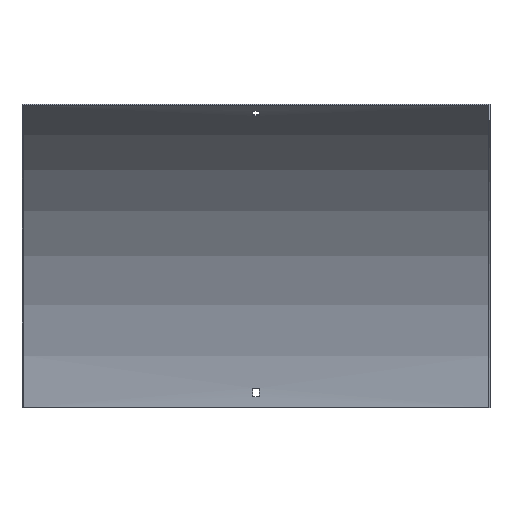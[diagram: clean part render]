
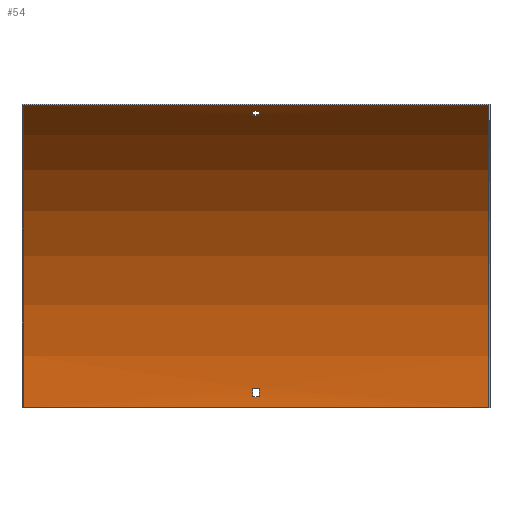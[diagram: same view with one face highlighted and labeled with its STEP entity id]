
A CAD part, front view. The second image highlights one B-rep face of the part: STEP entity #54.
In plain terms, the highlighted cylindrical face has radius 375 mm (diameter 750 mm), a partial arc.
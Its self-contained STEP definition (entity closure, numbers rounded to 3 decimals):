
#6 = LINE ( 'NONE', #334, #40 ) ;
#17 = CIRCLE ( 'NONE', #490, 375. ) ;
#21 = CARTESIAN_POINT ( 'NONE',  ( 3.25, -1.692, 12. ) ) ;
#22 = FACE_OUTER_BOUND ( 'NONE', #413, .T. ) ;
#24 = ORIENTED_EDGE ( 'NONE', *, *, #376, .F. ) ;
#30 = AXIS2_PLACEMENT_3D ( 'NONE', #404, #263, #533 ) ;
#32 = CIRCLE ( 'NONE', #109, 375. ) ;
#40 = VECTOR ( 'NONE', #572, 1000. ) ;
#45 = VERTEX_POINT ( 'NONE', #106 ) ;
#54 = ADVANCED_FACE ( 'NONE', ( #541, #22, #491 ), #255, .F. ) ;
#55 = VERTEX_POINT ( 'NONE', #21 ) ;
#57 = CIRCLE ( 'NONE', #286, 375. ) ;
#59 = ORIENTED_EDGE ( 'NONE', *, *, #576, .F. ) ;
#66 = VERTEX_POINT ( 'NONE', #308 ) ;
#76 = AXIS2_PLACEMENT_3D ( 'NONE', #153, #110, #259 ) ;
#88 = LINE ( 'NONE', #281, #585 ) ;
#95 = ORIENTED_EDGE ( 'NONE', *, *, #129, .T. ) ;
#102 = DIRECTION ( 'NONE',  ( -1., 0., 0. ) ) ;
#106 = CARTESIAN_POINT ( 'NONE',  ( -3.25, -171.108, 313.75 ) ) ;
#108 = EDGE_CURVE ( 'NONE', #326, #66, #530, .T. ) ;
#109 = AXIS2_PLACEMENT_3D ( 'NONE', #121, #450, #215 ) ;
#110 = DIRECTION ( 'NONE',  ( -1., 0., 0. ) ) ;
#119 = DIRECTION ( 'NONE',  ( 1., 0., 0. ) ) ;
#121 = CARTESIAN_POINT ( 'NONE',  ( 3.25, -376.5, 0. ) ) ;
#122 = EDGE_CURVE ( 'NONE', #212, #570, #346, .T. ) ;
#123 = CARTESIAN_POINT ( 'NONE',  ( -3.25, -2.088, 21. ) ) ;
#129 = EDGE_CURVE ( 'NONE', #66, #45, #446, .T. ) ;
#142 = ORIENTED_EDGE ( 'NONE', *, *, #271, .T. ) ;
#152 = VERTEX_POINT ( 'NONE', #297 ) ;
#153 = CARTESIAN_POINT ( 'NONE',  ( 3.25, -376.5, 0. ) ) ;
#157 = CARTESIAN_POINT ( 'NONE',  ( -250., -1.5, 0. ) ) ;
#192 = AXIS2_PLACEMENT_3D ( 'NONE', #216, #261, #499 ) ;
#202 = VERTEX_POINT ( 'NONE', #414 ) ;
#208 = DIRECTION ( 'NONE',  ( -1., 0., 0. ) ) ;
#210 = VERTEX_POINT ( 'NONE', #123 ) ;
#212 = VERTEX_POINT ( 'NONE', #406 ) ;
#215 = DIRECTION ( 'NONE',  ( 0., 0., -1. ) ) ;
#216 = CARTESIAN_POINT ( 'NONE',  ( -250., -376.5, 0. ) ) ;
#224 = EDGE_CURVE ( 'NONE', #519, #212, #17, .T. ) ;
#231 = DIRECTION ( 'NONE',  ( 0., 0., 1. ) ) ;
#238 = EDGE_LOOP ( 'NONE', ( #95, #142, #445, #424 ) ) ;
#239 = AXIS2_PLACEMENT_3D ( 'NONE', #443, #208, #396 ) ;
#243 = EDGE_CURVE ( 'NONE', #202, #326, #264, .T. ) ;
#250 = ORIENTED_EDGE ( 'NONE', *, *, #224, .T. ) ;
#255 = CYLINDRICAL_SURFACE ( 'NONE', #239, 375. ) ;
#259 = DIRECTION ( 'NONE',  ( 0., 0., 1. ) ) ;
#261 = DIRECTION ( 'NONE',  ( 1., 0., 0. ) ) ;
#263 = DIRECTION ( 'NONE',  ( 1., 0., 0. ) ) ;
#264 = LINE ( 'NONE', #452, #283 ) ;
#267 = VECTOR ( 'NONE', #312, 1000. ) ;
#271 = EDGE_CURVE ( 'NONE', #45, #202, #390, .T. ) ;
#278 = CARTESIAN_POINT ( 'NONE',  ( 250., -376.5, 0. ) ) ;
#281 = CARTESIAN_POINT ( 'NONE',  ( 251.5, -1.692, 12. ) ) ;
#283 = VECTOR ( 'NONE', #119, 1000. ) ;
#286 = AXIS2_PLACEMENT_3D ( 'NONE', #337, #383, #231 ) ;
#288 = EDGE_CURVE ( 'NONE', #386, #570, #571, .T. ) ;
#297 = CARTESIAN_POINT ( 'NONE',  ( 3.25, -2.088, 21. ) ) ;
#301 = ORIENTED_EDGE ( 'NONE', *, *, #122, .T. ) ;
#304 = CARTESIAN_POINT ( 'NONE',  ( 251.5, -171.108, 313.75 ) ) ;
#308 = CARTESIAN_POINT ( 'NONE',  ( 3.25, -171.108, 313.75 ) ) ;
#312 = DIRECTION ( 'NONE',  ( -1., 0., 0. ) ) ;
#326 = VERTEX_POINT ( 'NONE', #350 ) ;
#330 = ORIENTED_EDGE ( 'NONE', *, *, #553, .F. ) ;
#334 = CARTESIAN_POINT ( 'NONE',  ( 250., -1.5, 0. ) ) ;
#337 = CARTESIAN_POINT ( 'NONE',  ( -3.25, -376.5, 0. ) ) ;
#338 = EDGE_LOOP ( 'NONE', ( #330, #24, #526, #59 ) ) ;
#344 = CARTESIAN_POINT ( 'NONE',  ( 251.5, -2.088, 21. ) ) ;
#346 = LINE ( 'NONE', #442, #267 ) ;
#350 = CARTESIAN_POINT ( 'NONE',  ( 3.25, -178.704, 318.593 ) ) ;
#371 = CARTESIAN_POINT ( 'NONE',  ( -250., -189., 324.76 ) ) ;
#374 = DIRECTION ( 'NONE',  ( 1., 0., 0. ) ) ;
#376 = EDGE_CURVE ( 'NONE', #152, #210, #538, .T. ) ;
#380 = ORIENTED_EDGE ( 'NONE', *, *, #288, .F. ) ;
#383 = DIRECTION ( 'NONE',  ( -1., 0., 0. ) ) ;
#386 = VERTEX_POINT ( 'NONE', #157 ) ;
#390 = CIRCLE ( 'NONE', #30, 375. ) ;
#396 = DIRECTION ( 'NONE',  ( 0., 0., 1. ) ) ;
#404 = CARTESIAN_POINT ( 'NONE',  ( -3.25, -376.5, 0. ) ) ;
#406 = CARTESIAN_POINT ( 'NONE',  ( 250., -189., 324.76 ) ) ;
#413 = EDGE_LOOP ( 'NONE', ( #380, #562, #250, #301 ) ) ;
#414 = CARTESIAN_POINT ( 'NONE',  ( -3.25, -178.704, 318.593 ) ) ;
#418 = EDGE_CURVE ( 'NONE', #55, #152, #32, .T. ) ;
#419 = CARTESIAN_POINT ( 'NONE',  ( 250., -1.5, 0. ) ) ;
#422 = VECTOR ( 'NONE', #102, 1000. ) ;
#424 = ORIENTED_EDGE ( 'NONE', *, *, #108, .T. ) ;
#426 = VERTEX_POINT ( 'NONE', #510 ) ;
#442 = CARTESIAN_POINT ( 'NONE',  ( 250., -189., 324.76 ) ) ;
#443 = CARTESIAN_POINT ( 'NONE',  ( 251.5, -376.5, 0. ) ) ;
#445 = ORIENTED_EDGE ( 'NONE', *, *, #243, .T. ) ;
#446 = LINE ( 'NONE', #304, #422 ) ;
#448 = VECTOR ( 'NONE', #546, 1000. ) ;
#450 = DIRECTION ( 'NONE',  ( 1., 0., 0. ) ) ;
#452 = CARTESIAN_POINT ( 'NONE',  ( 251.5, -178.704, 318.593 ) ) ;
#490 = AXIS2_PLACEMENT_3D ( 'NONE', #278, #594, #598 ) ;
#491 = FACE_BOUND ( 'NONE', #238, .T. ) ;
#499 = DIRECTION ( 'NONE',  ( 0., 0., -1. ) ) ;
#510 = CARTESIAN_POINT ( 'NONE',  ( -3.25, -1.692, 12. ) ) ;
#519 = VERTEX_POINT ( 'NONE', #419 ) ;
#526 = ORIENTED_EDGE ( 'NONE', *, *, #418, .F. ) ;
#530 = CIRCLE ( 'NONE', #76, 375. ) ;
#533 = DIRECTION ( 'NONE',  ( 0., 1., 0. ) ) ;
#538 = LINE ( 'NONE', #344, #448 ) ;
#541 = FACE_BOUND ( 'NONE', #338, .T. ) ;
#546 = DIRECTION ( 'NONE',  ( -1., 0., 0. ) ) ;
#553 = EDGE_CURVE ( 'NONE', #210, #426, #57, .T. ) ;
#562 = ORIENTED_EDGE ( 'NONE', *, *, #574, .F. ) ;
#570 = VERTEX_POINT ( 'NONE', #371 ) ;
#571 = CIRCLE ( 'NONE', #192, 375. ) ;
#572 = DIRECTION ( 'NONE',  ( -1., 0., 0. ) ) ;
#574 = EDGE_CURVE ( 'NONE', #519, #386, #6, .T. ) ;
#576 = EDGE_CURVE ( 'NONE', #426, #55, #88, .T. ) ;
#585 = VECTOR ( 'NONE', #374, 1000. ) ;
#594 = DIRECTION ( 'NONE',  ( 1., 0., 0. ) ) ;
#598 = DIRECTION ( 'NONE',  ( 0., 0., -1. ) ) ;
